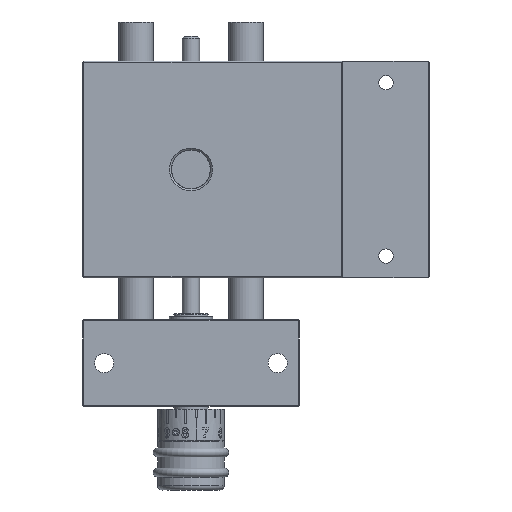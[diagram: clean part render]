
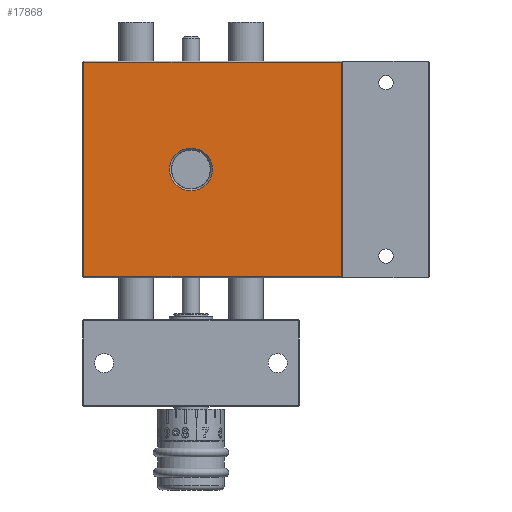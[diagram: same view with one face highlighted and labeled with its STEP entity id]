
A CAD part, front view. The second image highlights one B-rep face of the part: STEP entity #17868.
In plain terms, the highlighted planar face has unit normal (0, -1, 0) as drawn and (0, 1, 0) by its records, which use the part's own axes.
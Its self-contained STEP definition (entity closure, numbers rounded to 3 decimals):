
#123 = CARTESIAN_POINT ( 'NONE',  ( -37.5, 10., -37.5 ) ) ;
#272 = EDGE_CURVE ( 'NONE', #1385, #6416, #4256, .T. ) ;
#620 = VERTEX_POINT ( 'NONE', #20326 ) ;
#956 = DIRECTION ( 'NONE',  ( 0., -1., 0. ) ) ;
#1385 = VERTEX_POINT ( 'NONE', #9350 ) ;
#3397 = ORIENTED_EDGE ( 'NONE', *, *, #8432, .T. ) ;
#3920 = AXIS2_PLACEMENT_3D ( 'NONE', #15513, #956, #17953 ) ;
#4256 = LINE ( 'NONE', #16756, #15661 ) ;
#5277 = CARTESIAN_POINT ( 'NONE',  ( 52.5, 10., 37.1 ) ) ;
#5815 = DIRECTION ( 'NONE',  ( 0., 0., -1. ) ) ;
#6333 = FACE_BOUND ( 'NONE', #16990, .T. ) ;
#6416 = VERTEX_POINT ( 'NONE', #27228 ) ;
#7145 = VECTOR ( 'NONE', #11933, 1000. ) ;
#7335 = VERTEX_POINT ( 'NONE', #27557 ) ;
#7448 = PLANE ( 'NONE',  #20000 ) ;
#7935 = AXIS2_PLACEMENT_3D ( 'NONE', #23690, #9153, #26150 ) ;
#8314 = VECTOR ( 'NONE', #22260, 1000. ) ;
#8432 = EDGE_CURVE ( 'NONE', #14917, #1385, #14745, .T. ) ;
#9153 = DIRECTION ( 'NONE',  ( 0., -1., 0. ) ) ;
#9350 = CARTESIAN_POINT ( 'NONE',  ( 52.1, 10., 37.1 ) ) ;
#9775 = EDGE_LOOP ( 'NONE', ( #31534, #3397, #21232, #24645 ) ) ;
#11933 = DIRECTION ( 'NONE',  ( 0., 0., 1. ) ) ;
#12282 = EDGE_CURVE ( 'NONE', #6416, #7335, #26119, .T. ) ;
#12347 = DIRECTION ( 'NONE',  ( 0., 1., 0. ) ) ;
#13246 = CARTESIAN_POINT ( 'NONE',  ( -7.4, 10., 0. ) ) ;
#14745 = LINE ( 'NONE', #5277, #8314 ) ;
#14917 = VERTEX_POINT ( 'NONE', #15575 ) ;
#14966 = VERTEX_POINT ( 'NONE', #13246 ) ;
#15499 = LINE ( 'NONE', #26498, #7145 ) ;
#15513 = CARTESIAN_POINT ( 'NONE',  ( 0., 10., 0. ) ) ;
#15575 = CARTESIAN_POINT ( 'NONE',  ( -37.1, 10., 37.1 ) ) ;
#15597 = DIRECTION ( 'NONE',  ( -1., 0., 0. ) ) ;
#15661 = VECTOR ( 'NONE', #5815, 1000. ) ;
#15975 = EDGE_CURVE ( 'NONE', #7335, #14917, #15499, .T. ) ;
#16756 = CARTESIAN_POINT ( 'NONE',  ( 52.1, 10., -37.5 ) ) ;
#16990 = EDGE_LOOP ( 'NONE', ( #28891, #26583 ) ) ;
#17868 = ADVANCED_FACE ( 'NONE', ( #6333, #19234 ), #7448, .T. ) ;
#17953 = DIRECTION ( 'NONE',  ( 1., 0., 0. ) ) ;
#17957 = CIRCLE ( 'NONE', #7935, 7.4 ) ;
#19234 = FACE_OUTER_BOUND ( 'NONE', #9775, .T. ) ;
#20000 = AXIS2_PLACEMENT_3D ( 'NONE', #123, #12347, #29364 ) ;
#20199 = CIRCLE ( 'NONE', #3920, 7.4 ) ;
#20326 = CARTESIAN_POINT ( 'NONE',  ( 7.4, 10., 0. ) ) ;
#21232 = ORIENTED_EDGE ( 'NONE', *, *, #272, .T. ) ;
#22260 = DIRECTION ( 'NONE',  ( 1., 0., 0. ) ) ;
#23116 = EDGE_CURVE ( 'NONE', #620, #14966, #17957, .T. ) ;
#23690 = CARTESIAN_POINT ( 'NONE',  ( 0., 10., 0. ) ) ;
#24078 = EDGE_CURVE ( 'NONE', #14966, #620, #20199, .T. ) ;
#24645 = ORIENTED_EDGE ( 'NONE', *, *, #12282, .T. ) ;
#25267 = CARTESIAN_POINT ( 'NONE',  ( -37.5, 10., -37.1 ) ) ;
#25362 = VECTOR ( 'NONE', #15597, 1000. ) ;
#26119 = LINE ( 'NONE', #25267, #25362 ) ;
#26150 = DIRECTION ( 'NONE',  ( 1., 0., 0. ) ) ;
#26498 = CARTESIAN_POINT ( 'NONE',  ( -37.1, 10., 37.5 ) ) ;
#26583 = ORIENTED_EDGE ( 'NONE', *, *, #24078, .T. ) ;
#27228 = CARTESIAN_POINT ( 'NONE',  ( 52.1, 10., -37.1 ) ) ;
#27557 = CARTESIAN_POINT ( 'NONE',  ( -37.1, 10., -37.1 ) ) ;
#28891 = ORIENTED_EDGE ( 'NONE', *, *, #23116, .T. ) ;
#29364 = DIRECTION ( 'NONE',  ( 1., 0., 0. ) ) ;
#31534 = ORIENTED_EDGE ( 'NONE', *, *, #15975, .T. ) ;
